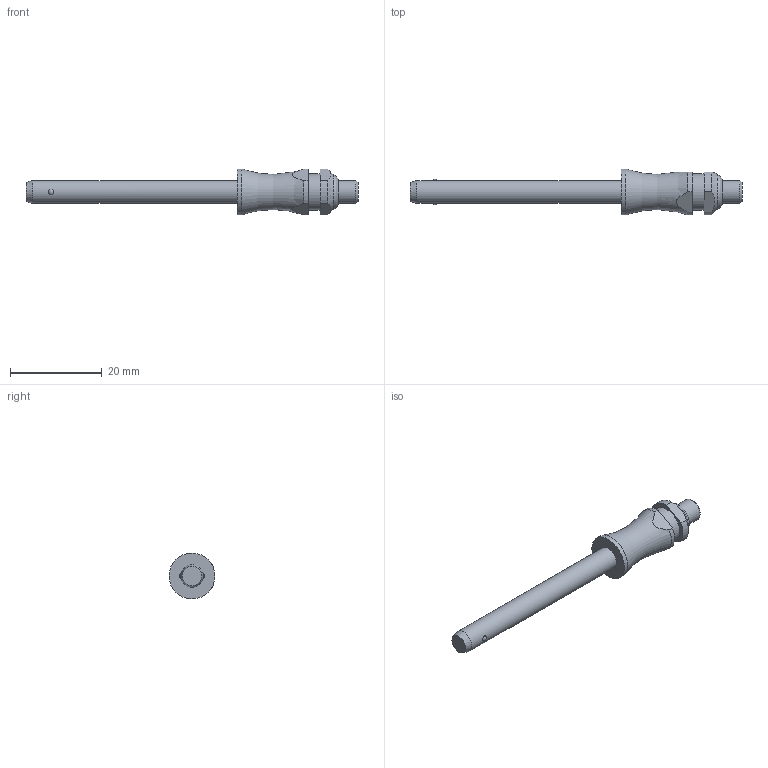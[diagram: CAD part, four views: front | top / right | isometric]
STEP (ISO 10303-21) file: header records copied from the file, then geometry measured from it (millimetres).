
FILE_DESCRIPTION( ( 'STEP AP203' ), '1' );
FILE_NAME( 'C:/Temp/Ganter_Step_05_03_2020/data/3_1/gn113_3/Stainless Steel-Ball lock pin GN 113.3-5-40 (deactivated).stp', '2020-03-12T08:18:11', ( 'License CC BY-ND 4.0' ), ( 'CADENAS' ), ' ', 'PARTsolutions', ' ' );
FILE_SCHEMA( ( 'CONFIG_CONTROL_DESIGN' ) );
Length unit declared in the file: millimetre
Products named in the file (1): _Stainless Steel-Ball lock pin GN 113.3-5-40 (deactivated)
Bounding box: 72.3 x 10 x 10 mm (x, y, z)
Volume: 2239.7 mm3; surface area: 1542.1 mm2
Topology: 1 solids, 1 shells, 29 faces, 61 edges, 40 vertices
Faces by surface type: plane 12, cylinder 10, cone 3, torus 2, sphere 2
Full cylindrical faces by diameter (mm): 5 x2, 7.9 x1, 10 x1
Entity records: 902 total; most frequent: CARTESIAN_POINT 272, DIRECTION 126, ORIENTED_EDGE 100, AXIS2_PLACEMENT_3D 54, EDGE_CURVE 50, EDGE_LOOP 44, VERTEX_POINT 38, FACE_OUTER_BOUND 35
